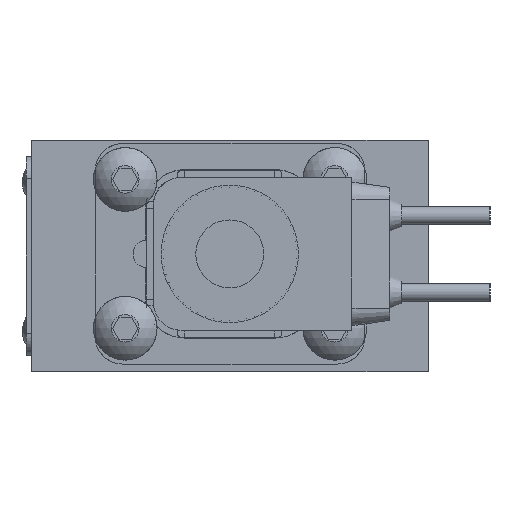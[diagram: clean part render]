
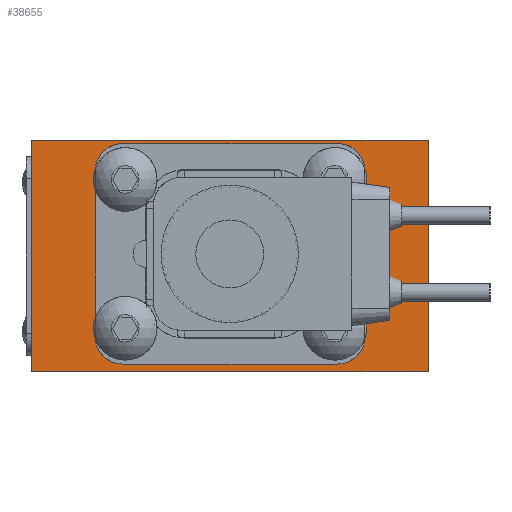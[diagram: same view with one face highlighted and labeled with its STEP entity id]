
A CAD part, left-side view. The second image highlights one B-rep face of the part: STEP entity #38655.
In plain terms, the highlighted planar face has unit normal (-1, 0, 0).
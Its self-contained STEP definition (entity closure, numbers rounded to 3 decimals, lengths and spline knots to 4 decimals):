
#534=FACE_BOUND('',#6980,.T.);
#2445=CIRCLE('',#41998,0.4);
#2446=CIRCLE('',#41999,0.4);
#2447=CIRCLE('',#42000,0.4);
#2448=CIRCLE('',#42001,0.4);
#4659=FACE_OUTER_BOUND('',#6979,.T.);
#6979=EDGE_LOOP('',(#29287,#29288,#29289,#29290));
#6980=EDGE_LOOP('',(#29291,#29292,#29293,#29294,#29295,#29296,#29297,#29298));
#9509=LINE('',#63850,#12319);
#9518=LINE('',#63886,#12328);
#9545=LINE('',#63974,#12355);
#9607=LINE('',#64630,#12417);
#9608=LINE('',#64635,#12418);
#9609=LINE('',#64639,#12419);
#9610=LINE('',#64643,#12420);
#9611=LINE('',#64646,#12421);
#12319=VECTOR('',#49460,1.);
#12328=VECTOR('',#49489,1.);
#12355=VECTOR('',#49584,1.);
#12417=VECTOR('',#49968,1.);
#12418=VECTOR('',#49971,1.);
#12419=VECTOR('',#49974,1.);
#12420=VECTOR('',#49977,1.);
#12421=VECTOR('',#49980,1.);
#16134=VERTEX_POINT('',#63846);
#16136=VERTEX_POINT('',#63849);
#16153=VERTEX_POINT('',#63885);
#16180=VERTEX_POINT('',#63973);
#16284=VERTEX_POINT('',#64631);
#16285=VERTEX_POINT('',#64632);
#16286=VERTEX_POINT('',#64634);
#16287=VERTEX_POINT('',#64636);
#16288=VERTEX_POINT('',#64638);
#16289=VERTEX_POINT('',#64640);
#16290=VERTEX_POINT('',#64642);
#16291=VERTEX_POINT('',#64644);
#20653=EDGE_CURVE('',#16136,#16134,#9509,.T.);
#20671=EDGE_CURVE('',#16153,#16136,#9518,.T.);
#20712=EDGE_CURVE('',#16180,#16153,#9545,.T.);
#20878=EDGE_CURVE('',#16134,#16180,#9607,.T.);
#20879=EDGE_CURVE('',#16284,#16285,#2445,.T.);
#20880=EDGE_CURVE('',#16285,#16286,#9608,.T.);
#20881=EDGE_CURVE('',#16286,#16287,#2446,.T.);
#20882=EDGE_CURVE('',#16287,#16288,#9609,.T.);
#20883=EDGE_CURVE('',#16288,#16289,#2447,.T.);
#20884=EDGE_CURVE('',#16289,#16290,#9610,.T.);
#20885=EDGE_CURVE('',#16290,#16291,#2448,.T.);
#20886=EDGE_CURVE('',#16291,#16284,#9611,.T.);
#29287=ORIENTED_EDGE('',*,*,#20653,.T.);
#29288=ORIENTED_EDGE('',*,*,#20878,.T.);
#29289=ORIENTED_EDGE('',*,*,#20712,.T.);
#29290=ORIENTED_EDGE('',*,*,#20671,.T.);
#29291=ORIENTED_EDGE('',*,*,#20879,.T.);
#29292=ORIENTED_EDGE('',*,*,#20880,.T.);
#29293=ORIENTED_EDGE('',*,*,#20881,.T.);
#29294=ORIENTED_EDGE('',*,*,#20882,.T.);
#29295=ORIENTED_EDGE('',*,*,#20883,.T.);
#29296=ORIENTED_EDGE('',*,*,#20884,.T.);
#29297=ORIENTED_EDGE('',*,*,#20885,.T.);
#29298=ORIENTED_EDGE('',*,*,#20886,.T.);
#34767=PLANE('',#41997);
#38655=ADVANCED_FACE('',(#4659,#534),#34767,.T.);
#41997=AXIS2_PLACEMENT_3D('',#64629,#49966,#49967);
#41998=AXIS2_PLACEMENT_3D('',#64633,#49969,#49970);
#41999=AXIS2_PLACEMENT_3D('',#64637,#49972,#49973);
#42000=AXIS2_PLACEMENT_3D('',#64641,#49975,#49976);
#42001=AXIS2_PLACEMENT_3D('',#64645,#49978,#49979);
#49460=DIRECTION('',(0.,1.,0.));
#49489=DIRECTION('',(0.,0.,1.));
#49584=DIRECTION('',(0.,-1.,0.));
#49966=DIRECTION('center_axis',(-1.,0.,0.));
#49967=DIRECTION('ref_axis',(0.,0.,1.));
#49968=DIRECTION('',(0.,0.,-1.));
#49969=DIRECTION('center_axis',(1.,0.,0.));
#49970=DIRECTION('ref_axis',(0.,0.707,0.707));
#49971=DIRECTION('',(0.,-1.,0.));
#49972=DIRECTION('center_axis',(1.,0.,0.));
#49973=DIRECTION('ref_axis',(0.,-0.707,0.707));
#49974=DIRECTION('',(0.,0.,-1.));
#49975=DIRECTION('center_axis',(1.,0.,0.));
#49976=DIRECTION('ref_axis',(0.,-0.707,-0.707));
#49977=DIRECTION('',(0.,1.,0.));
#49978=DIRECTION('center_axis',(1.,0.,0.));
#49979=DIRECTION('ref_axis',(0.,0.707,-0.707));
#49980=DIRECTION('',(0.,0.,1.));
#63846=CARTESIAN_POINT('',(-4.7117,2.8575,1.6662));
#63849=CARTESIAN_POINT('',(-4.7117,-2.8575,1.6662));
#63850=CARTESIAN_POINT('',(-4.7117,-2.8575,1.6662));
#63885=CARTESIAN_POINT('',(-4.7117,-2.8575,-1.6662));
#63886=CARTESIAN_POINT('',(-4.7117,-2.8575,0.));
#63973=CARTESIAN_POINT('',(-4.7117,2.8575,-1.6662));
#63974=CARTESIAN_POINT('',(-4.7117,-2.8575,-1.6662));
#64629=CARTESIAN_POINT('Origin',(-4.7117,-2.8575,0.));
#64630=CARTESIAN_POINT('',(-4.7117,2.8575,0.));
#64631=CARTESIAN_POINT('',(-4.7117,1.94,1.2055));
#64632=CARTESIAN_POINT('',(-4.7117,1.54,1.6055));
#64633=CARTESIAN_POINT('Origin',(-4.7117,1.54,1.2055));
#64634=CARTESIAN_POINT('',(-4.7117,-1.54,1.6055));
#64635=CARTESIAN_POINT('',(-4.7117,-0.4588,1.6055));
#64636=CARTESIAN_POINT('',(-4.7117,-1.94,1.2055));
#64637=CARTESIAN_POINT('Origin',(-4.7117,-1.54,1.2055));
#64638=CARTESIAN_POINT('',(-4.7117,-1.94,-1.1445));
#64639=CARTESIAN_POINT('',(-4.7117,-1.94,0.8027));
#64640=CARTESIAN_POINT('',(-4.7117,-1.54,-1.5445));
#64641=CARTESIAN_POINT('Origin',(-4.7117,-1.54,-1.1445));
#64642=CARTESIAN_POINT('',(-4.7117,1.54,-1.5445));
#64643=CARTESIAN_POINT('',(-4.7117,-2.3988,-1.5445));
#64644=CARTESIAN_POINT('',(-4.7117,1.94,-1.1445));
#64645=CARTESIAN_POINT('Origin',(-4.7117,1.54,-1.1445));
#64646=CARTESIAN_POINT('',(-4.7117,1.94,-0.7723));
